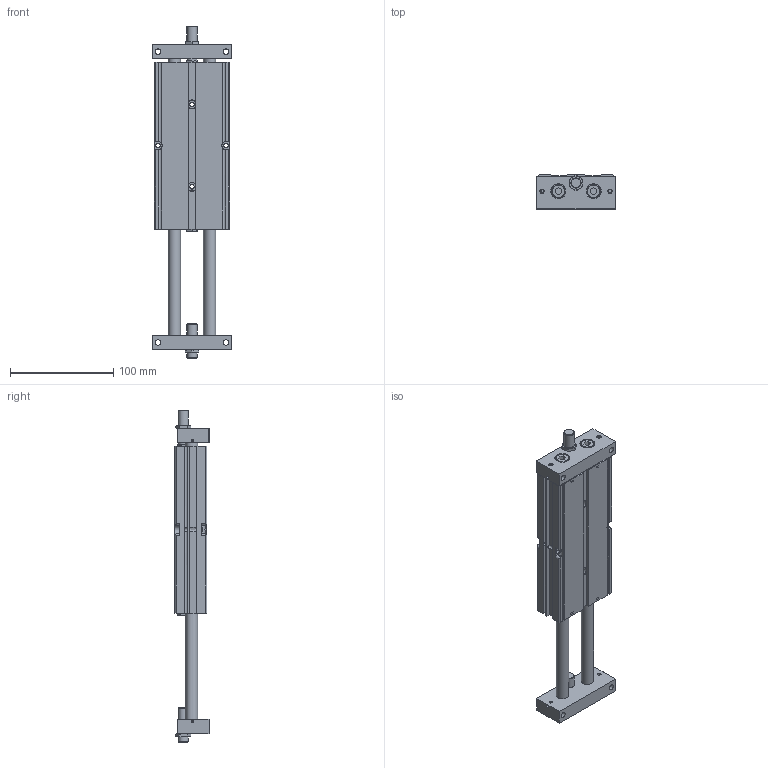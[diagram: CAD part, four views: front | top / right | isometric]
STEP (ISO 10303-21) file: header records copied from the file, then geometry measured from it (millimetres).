
FILE_DESCRIPTION((''),'2;1');
FILE_NAME('I:\3D電子目錄\氣缸\STU\STU\STU25\STU25x100.stp','2007-10-01T11:42:03',('Administrator'),(''),'Autodesk Inventor 11','Autodesk Inventor 11','');
FILE_SCHEMA(('AUTOMOTIVE_DESIGN { 1 0 10303 214 1 1 1 1 }'));
Length unit declared in the file: millimetre
Products named in the file (1): STU25
Bounding box: 77 x 33 x 322 mm (x, y, z)
Volume: 418841.3 mm3; surface area: 81651.1 mm2
Topology: 1 solids, 1 shells, 350 faces, 884 edges, 559 vertices
Faces by surface type: plane 163, cone 81, bspline 58, cylinder 44, torus 4
Full cylindrical faces by diameter (mm): 2.459 x2, 8 x2, 10 x4, 12 x2, 13 x4, 14 x4, 28 x2, 29.6 x2
Entity records: 11231 total; most frequent: CARTESIAN_POINT 3727, ORIENTED_EDGE 1484, DIRECTION 1462, EDGE_CURVE 742, AXIS2_PLACEMENT_3D 555, EDGE_LOOP 530, VERTEX_POINT 522, VECTOR 352
